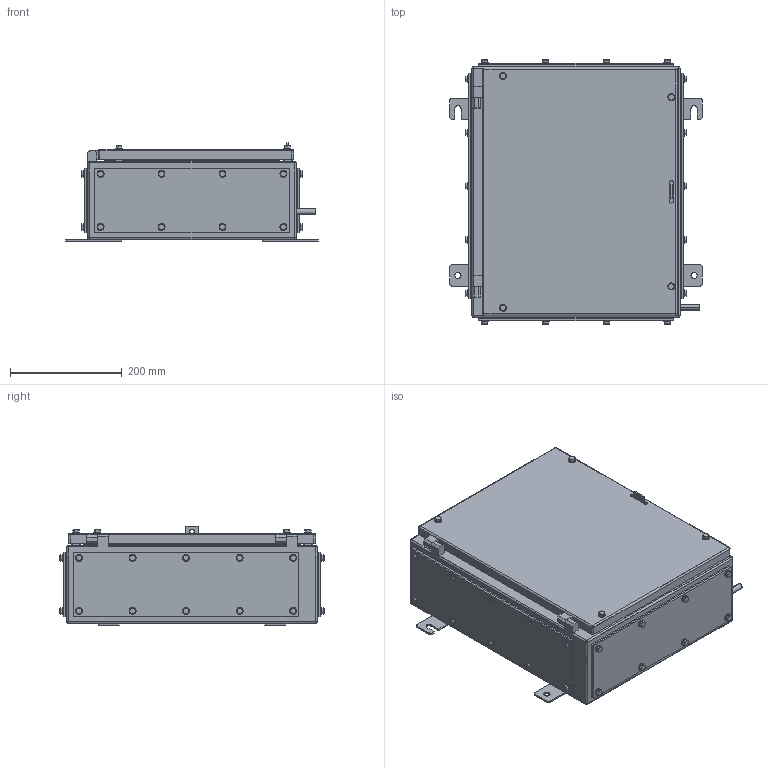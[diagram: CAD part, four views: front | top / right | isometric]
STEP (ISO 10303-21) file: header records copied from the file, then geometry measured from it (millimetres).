
FILE_DESCRIPTION (( 'STEP AP203' ), '1' );
FILE_NAME ('SX3_140_4GP.STEP', '2021-05-20T12:17:12', ( '' ), ( '' ), 'SwSTEP 2.0', 'SolidWorks 2020', '' );
FILE_SCHEMA (( 'CONFIG_CONTROL_DESIGN' ));
Length unit declared in the file: millimetre
Products named in the file (10): SX3_140_4GP; SX3-140 side Gasket; hex screw gradec_bsi_BS EN 24018 - M6 x 20-WN; plain washer form a_bsi_Bright washer BS 4320 - M6 (Form A); SX3 Door; SX4-140 Base Gland plate; SX3-140 side Gland plate; SX3_140_4GP Body; hex screw gradec_bsi_BS EN 24018 - M6 x 16-WN; SX4-140 Base Gasket
Assembly tree (90 placements, depth 2):
  SX3_140_4GP
    SX3 Door
    hex screw gradec_bsi_BS EN 24018 - M6 x 16-WN  x36
    hex screw gradec_bsi_BS EN 24018 - M6 x 20-WN  x4
    plain washer form a_bsi_Bright washer BS 4320 - M6 (Form A)  x40
    SX3_140_4GP Body
    SX4-140 Base Gland plate  x2
    SX4-140 Base Gasket  x2
    SX3-140 side Gasket  x2
    SX3-140 side Gland plate  x2
Bounding box: 452 x 471.95 x 176 mm (x, y, z)
Volume: 1944497 mm3; surface area: 1686154.2 mm2
Topology: 90 solids, 90 shells, 2138 faces, 4674 edges, 2824 vertices
Faces by surface type: plane 974, cylinder 788, cone 328, sphere 40, torus 8
Entity records: 25542 total; most frequent: DIRECTION 4284, CARTESIAN_POINT 3815, ORIENTED_EDGE 3476, EDGE_CURVE 1738, AXIS2_PLACEMENT_3D 1709, VERTEX_POINT 1096, EDGE_LOOP 978, VECTOR 866
